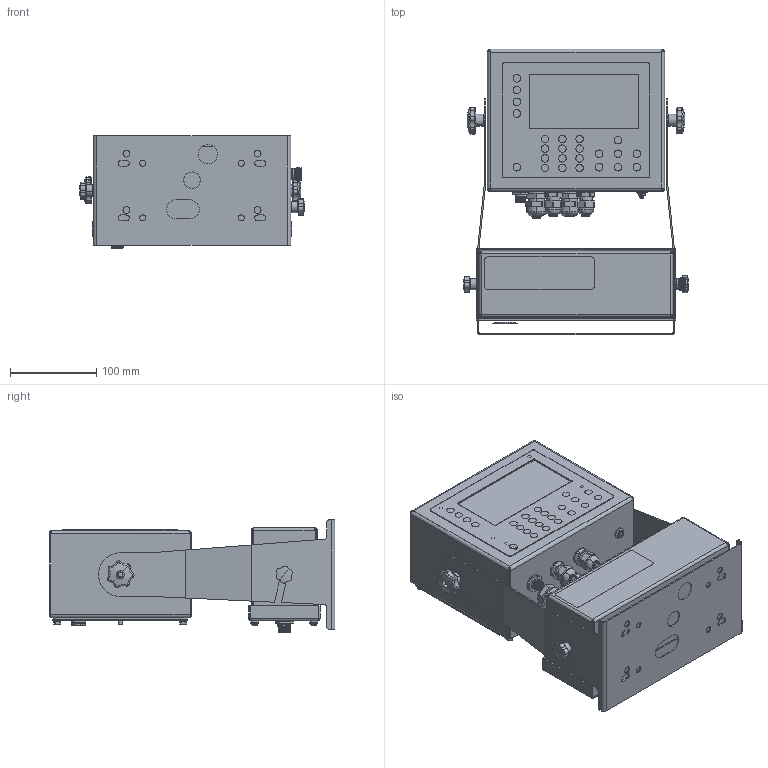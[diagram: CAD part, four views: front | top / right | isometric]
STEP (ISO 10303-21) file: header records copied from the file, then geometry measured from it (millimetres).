
FILE_DESCRIPTION (( 'STEP AP203' ), '1' );
FILE_NAME ('882IS-TOPLEVEL.STEP', '2019-05-15T21:46:02', ( '' ), ( '' ), 'SwSTEP 2.0', 'SolidWorks 2017', '' );
FILE_SCHEMA (( 'CONFIG_CONTROL_DESIGN' ));
Length unit declared in the file: inch
Products named in the file (2): 882IS-TOPLEVEL
Bounding box: 261.2 x 331.72 x 130.32 mm (x, y, z)
Surface area: 580255.8 mm2 (no closed solid volume)
Topology: 0 solids, 181 shells, 1308 faces, 6014 edges, 4734 vertices
Faces by surface type: plane 554, cylinder 414, cone 127, bspline 115, torus 74, sphere 24
Entity records: 77698 total; most frequent: CARTESIAN_POINT 29403, DIRECTION 10135, ORIENTED_EDGE 8320, EDGE_CURVE 6010, VERTEX_POINT 4734, AXIS2_PLACEMENT_3D 4078, CIRCLE 2883, EDGE_LOOP 2131
